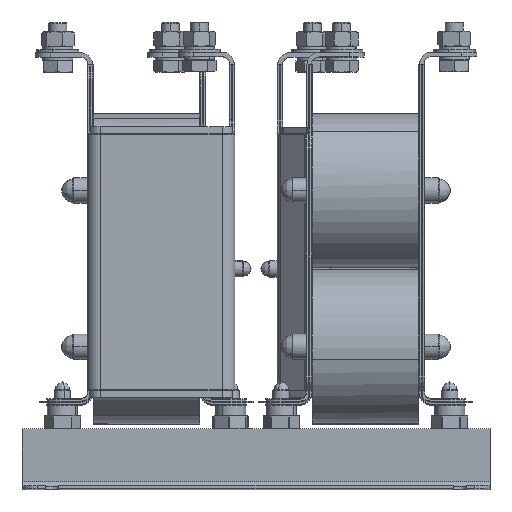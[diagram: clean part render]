
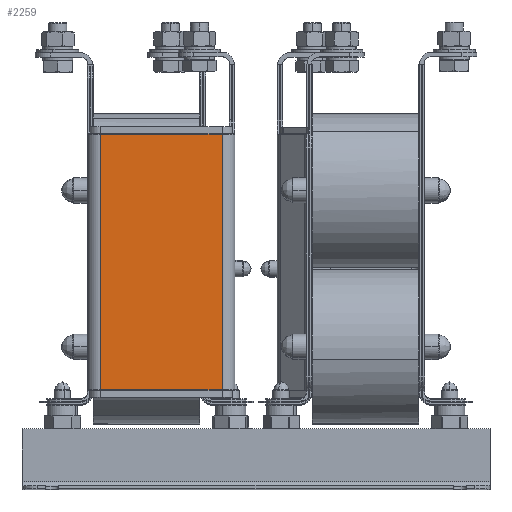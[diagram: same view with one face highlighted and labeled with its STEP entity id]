
A CAD part, top view. The second image highlights one B-rep face of the part: STEP entity #2259.
In plain terms, the highlighted planar face has unit normal (0, 0, 1).
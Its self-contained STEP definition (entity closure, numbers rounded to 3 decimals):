
#2259 = ADVANCED_FACE ( 'NONE', ( #74989 ), #19968, .F. ) ;
#4295 = LINE ( 'NONE', #31169, #64058 ) ;
#6883 = EDGE_CURVE ( 'NONE', #86937, #23662, #55772, .T. ) ;
#7807 = DIRECTION ( 'NONE',  ( -1., 0., 0. ) ) ;
#19968 = PLANE ( 'NONE',  #28162 ) ;
#22921 = ORIENTED_EDGE ( 'NONE', *, *, #39511, .T. ) ;
#23662 = VERTEX_POINT ( 'NONE', #69514 ) ;
#24304 = VECTOR ( 'NONE', #43855, 1000. ) ;
#28162 = AXIS2_PLACEMENT_3D ( 'NONE', #54280, #31922, #45178 ) ;
#31169 = CARTESIAN_POINT ( 'NONE',  ( 130.05, 63.7, -20.1 ) ) ;
#31704 = ORIENTED_EDGE ( 'NONE', *, *, #68599, .F. ) ;
#31922 = DIRECTION ( 'NONE',  ( 0., 0., -1. ) ) ;
#32583 = VERTEX_POINT ( 'NONE', #41507 ) ;
#36774 = CARTESIAN_POINT ( 'NONE',  ( 49.25, 233.1, -20.1 ) ) ;
#36781 = CARTESIAN_POINT ( 'NONE',  ( 49.25, 148.4, -20.1 ) ) ;
#39511 = EDGE_CURVE ( 'NONE', #23662, #32583, #4295, .T. ) ;
#41507 = CARTESIAN_POINT ( 'NONE',  ( 130.05, 63.7, -20.1 ) ) ;
#42162 = VERTEX_POINT ( 'NONE', #86454 ) ;
#43855 = DIRECTION ( 'NONE',  ( 0., -1., 0. ) ) ;
#45178 = DIRECTION ( 'NONE',  ( 1., 0., 0. ) ) ;
#54280 = CARTESIAN_POINT ( 'NONE',  ( 118.75, 148.4, -20.1 ) ) ;
#54497 = CARTESIAN_POINT ( 'NONE',  ( 118.75, 233.1, -20.1 ) ) ;
#54586 = VECTOR ( 'NONE', #7807, 1000. ) ;
#55772 = LINE ( 'NONE', #36781, #24304 ) ;
#63278 = ORIENTED_EDGE ( 'NONE', *, *, #6883, .T. ) ;
#64058 = VECTOR ( 'NONE', #74758, 1000. ) ;
#66408 = LINE ( 'NONE', #54497, #54586 ) ;
#67631 = DIRECTION ( 'NONE',  ( 0., -1., 0. ) ) ;
#68057 = CARTESIAN_POINT ( 'NONE',  ( 130.05, 232.9, -20.1 ) ) ;
#68599 = EDGE_CURVE ( 'NONE', #42162, #32583, #75544, .T. ) ;
#69514 = CARTESIAN_POINT ( 'NONE',  ( 49.25, 63.7, -20.1 ) ) ;
#69560 = VECTOR ( 'NONE', #67631, 1000. ) ;
#72608 = EDGE_CURVE ( 'NONE', #42162, #86937, #66408, .T. ) ;
#74758 = DIRECTION ( 'NONE',  ( 1., 0., 0. ) ) ;
#74989 = FACE_OUTER_BOUND ( 'NONE', #78459, .T. ) ;
#75544 = LINE ( 'NONE', #68057, #69560 ) ;
#78459 = EDGE_LOOP ( 'NONE', ( #31704, #86224, #63278, #22921 ) ) ;
#86224 = ORIENTED_EDGE ( 'NONE', *, *, #72608, .T. ) ;
#86454 = CARTESIAN_POINT ( 'NONE',  ( 130.05, 233.1, -20.1 ) ) ;
#86937 = VERTEX_POINT ( 'NONE', #36774 ) ;
